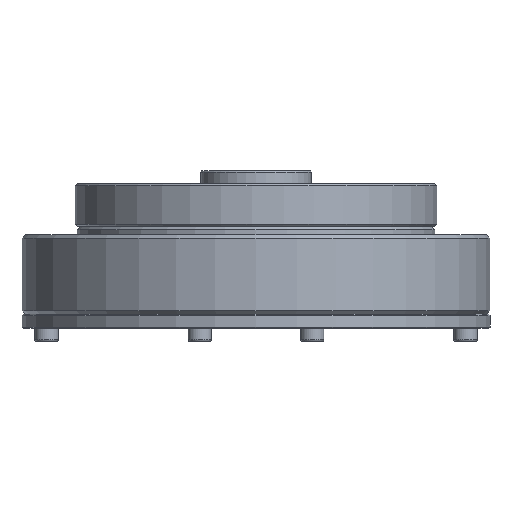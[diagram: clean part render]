
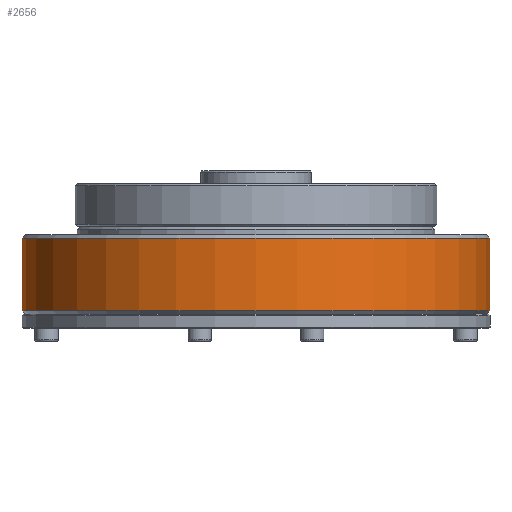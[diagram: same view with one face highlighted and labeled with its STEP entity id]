
A CAD part, front view. The second image highlights one B-rep face of the part: STEP entity #2656.
In plain terms, the highlighted cylindrical face has radius 55 mm (diameter 110 mm), a full revolution.
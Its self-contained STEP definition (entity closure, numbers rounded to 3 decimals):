
#2412=CYLINDRICAL_SURFACE('',#12410,55.);
#2656=ADVANCED_FACE('',(#3737,#3738),#2412,.T.);
#3737=FACE_BOUND('',#4808,.T.);
#3738=FACE_BOUND('',#4809,.T.);
#4808=EDGE_LOOP('',(#6152));
#4809=EDGE_LOOP('',(#6153));
#6152=ORIENTED_EDGE('',*,*,#10101,.F.);
#6153=ORIENTED_EDGE('',*,*,#10100,.T.);
#8955=VERTEX_POINT('',#17948);
#8956=VERTEX_POINT('',#17951);
#10100=EDGE_CURVE('',#8955,#8955,#11516,.T.);
#10101=EDGE_CURVE('',#8956,#8956,#11517,.T.);
#11516=CIRCLE('',#12407,55.);
#11517=CIRCLE('',#12409,55.);
#12407=AXIS2_PLACEMENT_3D('',#17947,#14174,#14175);
#12409=AXIS2_PLACEMENT_3D('',#17950,#14178,#14179);
#12410=AXIS2_PLACEMENT_3D('',#17952,#14180,#14181);
#14174=DIRECTION('',(0.,0.,-1.));
#14175=DIRECTION('',(-1.,0.,0.));
#14178=DIRECTION('',(0.,0.,-1.));
#14179=DIRECTION('',(-1.,0.,0.));
#14180=DIRECTION('',(0.,0.,-1.));
#14181=DIRECTION('',(-1.,0.,0.));
#17947=CARTESIAN_POINT('',(0.,0.,17.9));
#17948=CARTESIAN_POINT('',(-55.,0.,17.9));
#17950=CARTESIAN_POINT('',(0.,0.,0.8));
#17951=CARTESIAN_POINT('',(-55.,0.,0.8));
#17952=CARTESIAN_POINT('',(0.,0.,0.));
